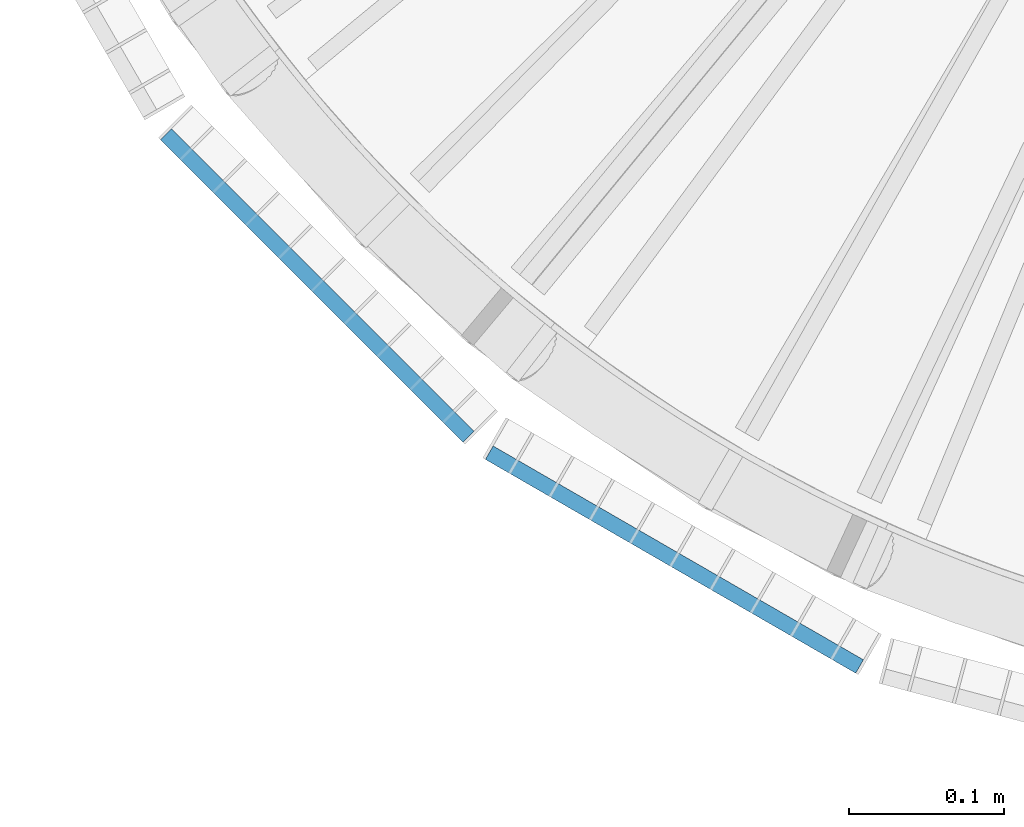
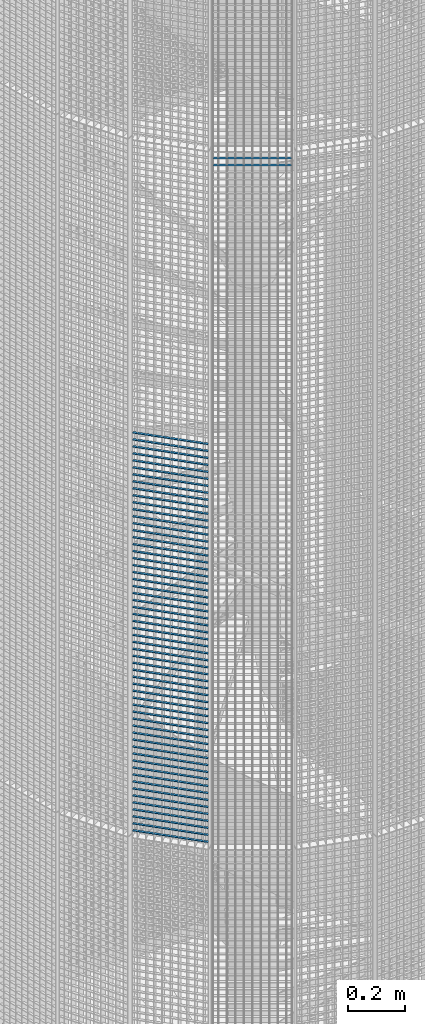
# One storey, part 336 of 1148: 60 beams, 2 elements without a shape of their own.
"""IFC2X3 building model written with IfcOpenShell, lengths in millimetres."""

from ifc_helpers import new_model, si_unit, frame, origin_with_axes, origin_2d_with_axis, place, context, subcontext, project, spatial, rectangle, extrude, material, type_object, element, aggregate, save


model = new_model("IFC2X3")

# Units and contexts
model_context = context("Model", 3, precision=1e-05, world=origin_with_axes())
body_context = subcontext(model_context, "Body", "Model", "MODEL_VIEW")
ifc_project = project(units=[si_unit("LENGTHUNIT", "METRE", prefix="MILLI"), si_unit("AREAUNIT", "SQUARE_METRE"), si_unit("VOLUMEUNIT", "CUBIC_METRE"), si_unit("MASSUNIT", "GRAM", prefix="KILO"), si_unit("TIMEUNIT", "SECOND"), si_unit("PLANEANGLEUNIT", "RADIAN"), si_unit("SOLIDANGLEUNIT", "STERADIAN"), si_unit("THERMODYNAMICTEMPERATUREUNIT", "DEGREE_CELSIUS"), si_unit("LUMINOUSINTENSITYUNIT", "LUMEN")], contexts=[model_context])

# Site, building, storey
site_placement = place(None, origin_with_axes())
site = spatial("IfcSite", under=ifc_project, at=site_placement, Name="Undefined", CompositionType="ELEMENT")
building_placement = place(site_placement, origin_with_axes())
building = spatial("IfcBuilding", under=site, at=building_placement, Name="Undefined", CompositionType="ELEMENT")
storey_placement = place(building_placement, origin_with_axes())
storey = spatial("IfcBuildingStorey", under=building, at=storey_placement, Name="Undefined", CompositionType="ELEMENT", Elevation=0.0)

# Assembly, beams
assembly_1_placement = place(storey_placement, origin_with_axes())
assembly_1 = element("IfcElementAssembly", 1, at=assembly_1_placement, inside=storey, Name="BORDURE", AssemblyPlace="NOTDEFINED", PredefinedType="NOTDEFINED")
ifc_material = material(Name="STEEL/S235JR")
beam_type = type_object("IfcBeamType", Name="PL2*10", PredefinedType="NOTDEFINED")
beam_1_placement = place(assembly_1_placement, frame((20910.2286510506, -884.927168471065, 13740.0), z_axis=(-0.70710678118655, -0.707106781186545, 0.0), x_axis=(-0.707106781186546, 0.707106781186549, 0.0)))
beam_1 = element("IfcBeam", 2, at=beam_1_placement, type_object=beam_type, material=ifc_material, Name="ENTRETOISE", context=body_context, shape_type="SweptSolid", body=[
    extrude(rectangle(XDim=2.0, YDim=10.0, at=origin_2d_with_axis()), frame((275.999999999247, 9.09494701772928e-13, 1.53210777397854e-14), z_axis=(-1.0, 0.0, 0.0), x_axis=(0.0, -1.0, 0.0)), (0.0, 0.0, 1.0), 276.0),
])
beam_2_placement = place(assembly_1_placement, frame((20910.2286510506, -884.927168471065, 13710.0), z_axis=(-0.70710678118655, -0.707106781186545, 0.0), x_axis=(-0.707106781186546, 0.707106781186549, 0.0)))
beam_2 = element("IfcBeam", 3, at=beam_2_placement, type_object=beam_type, material=ifc_material, Name="ENTRETOISE", context=body_context, shape_type="SweptSolid", body=[
    extrude(rectangle(XDim=2.0, YDim=10.0, at=origin_2d_with_axis()), frame((275.999999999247, 9.09494701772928e-13, 1.53210777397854e-14), z_axis=(-1.0, 0.0, 0.0), x_axis=(0.0, -1.0, 0.0)), (0.0, 0.0, 1.0), 276.0),
])
beam_3_placement = place(assembly_1_placement, frame((20910.2286510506, -884.927168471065, 13680.0), z_axis=(-0.70710678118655, -0.707106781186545, 0.0), x_axis=(-0.707106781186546, 0.707106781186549, 0.0)))
beam_3 = element("IfcBeam", 4, at=beam_3_placement, type_object=beam_type, material=ifc_material, Name="ENTRETOISE", context=body_context, shape_type="SweptSolid", body=[
    extrude(rectangle(XDim=2.0, YDim=10.0, at=origin_2d_with_axis()), frame((275.999999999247, 9.09494701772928e-13, 1.53210777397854e-14), z_axis=(-1.0, 0.0, 0.0), x_axis=(0.0, -1.0, 0.0)), (0.0, 0.0, 1.0), 276.0),
])
beam_4_placement = place(assembly_1_placement, frame((20910.2286510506, -884.927168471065, 13650.0), z_axis=(-0.70710678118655, -0.707106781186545, 0.0), x_axis=(-0.707106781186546, 0.707106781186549, 0.0)))
beam_4 = element("IfcBeam", 5, at=beam_4_placement, type_object=beam_type, material=ifc_material, Name="ENTRETOISE", context=body_context, shape_type="SweptSolid", body=[
    extrude(rectangle(XDim=2.0, YDim=10.0, at=origin_2d_with_axis()), frame((275.999999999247, 9.09494701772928e-13, 1.53210777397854e-14), z_axis=(-1.0, 0.0, 0.0), x_axis=(0.0, -1.0, 0.0)), (0.0, 0.0, 1.0), 276.0),
])
beam_5_placement = place(assembly_1_placement, frame((20910.2286510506, -884.927168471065, 13620.0), z_axis=(-0.70710678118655, -0.707106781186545, 0.0), x_axis=(-0.707106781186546, 0.707106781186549, 0.0)))
beam_5 = element("IfcBeam", 6, at=beam_5_placement, type_object=beam_type, material=ifc_material, Name="ENTRETOISE", context=body_context, shape_type="SweptSolid", body=[
    extrude(rectangle(XDim=2.0, YDim=10.0, at=origin_2d_with_axis()), frame((275.999999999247, 9.09494701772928e-13, 1.53210777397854e-14), z_axis=(-1.0, 0.0, 0.0), x_axis=(0.0, -1.0, 0.0)), (0.0, 0.0, 1.0), 276.0),
])
beam_6_placement = place(assembly_1_placement, frame((20910.2286510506, -884.927168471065, 13590.0), z_axis=(-0.70710678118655, -0.707106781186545, 0.0), x_axis=(-0.707106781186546, 0.707106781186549, 0.0)))
beam_6 = element("IfcBeam", 7, at=beam_6_placement, type_object=beam_type, material=ifc_material, Name="ENTRETOISE", context=body_context, shape_type="SweptSolid", body=[
    extrude(rectangle(XDim=2.0, YDim=10.0, at=origin_2d_with_axis()), frame((275.999999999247, 9.09494701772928e-13, 1.53210777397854e-14), z_axis=(-1.0, 0.0, 0.0), x_axis=(0.0, -1.0, 0.0)), (0.0, 0.0, 1.0), 276.0),
])
beam_7_placement = place(assembly_1_placement, frame((20910.2286510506, -884.927168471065, 13560.0), z_axis=(-0.70710678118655, -0.707106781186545, 0.0), x_axis=(-0.707106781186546, 0.707106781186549, 0.0)))
beam_7 = element("IfcBeam", 8, at=beam_7_placement, type_object=beam_type, material=ifc_material, Name="ENTRETOISE", context=body_context, shape_type="SweptSolid", body=[
    extrude(rectangle(XDim=2.0, YDim=10.0, at=origin_2d_with_axis()), frame((275.999999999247, 9.09494701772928e-13, 1.53210777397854e-14), z_axis=(-1.0, 0.0, 0.0), x_axis=(0.0, -1.0, 0.0)), (0.0, 0.0, 1.0), 276.0),
])
beam_8_placement = place(assembly_1_placement, frame((20910.2286510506, -884.927168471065, 13530.0), z_axis=(-0.70710678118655, -0.707106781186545, 0.0), x_axis=(-0.707106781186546, 0.707106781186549, 0.0)))
beam_8 = element("IfcBeam", 9, at=beam_8_placement, type_object=beam_type, material=ifc_material, Name="ENTRETOISE", context=body_context, shape_type="SweptSolid", body=[
    extrude(rectangle(XDim=2.0, YDim=10.0, at=origin_2d_with_axis()), frame((275.999999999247, 9.09494701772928e-13, 1.53210777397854e-14), z_axis=(-1.0, 0.0, 0.0), x_axis=(0.0, -1.0, 0.0)), (0.0, 0.0, 1.0), 276.0),
])
beam_9_placement = place(assembly_1_placement, frame((20910.2286510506, -884.927168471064, 13500.0), z_axis=(-0.70710678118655, -0.707106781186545, 0.0), x_axis=(-0.707106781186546, 0.707106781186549, 0.0)))
beam_9 = element("IfcBeam", 10, at=beam_9_placement, type_object=beam_type, material=ifc_material, Name="ENTRETOISE", context=body_context, shape_type="SweptSolid", body=[
    extrude(rectangle(XDim=2.0, YDim=10.0, at=origin_2d_with_axis()), frame((275.999999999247, 9.09494701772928e-13, 1.53210777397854e-14), z_axis=(-1.0, 0.0, 0.0), x_axis=(0.0, -1.0, 0.0)), (0.0, 0.0, 1.0), 276.0),
])
beam_10_placement = place(assembly_1_placement, frame((20910.2286510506, -884.927168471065, 13470.0), z_axis=(-0.70710678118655, -0.707106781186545, 0.0), x_axis=(-0.707106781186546, 0.707106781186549, 0.0)))
beam_10 = element("IfcBeam", 11, at=beam_10_placement, type_object=beam_type, material=ifc_material, Name="ENTRETOISE", context=body_context, shape_type="SweptSolid", body=[
    extrude(rectangle(XDim=2.0, YDim=10.0, at=origin_2d_with_axis()), frame((275.999999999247, 9.09494701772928e-13, 1.53210777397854e-14), z_axis=(-1.0, 0.0, 0.0), x_axis=(0.0, -1.0, 0.0)), (0.0, 0.0, 1.0), 276.0),
])
beam_11_placement = place(assembly_1_placement, frame((20910.2286510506, -884.927168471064, 13440.0), z_axis=(-0.70710678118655, -0.707106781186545, 0.0), x_axis=(-0.707106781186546, 0.707106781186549, 0.0)))
beam_11 = element("IfcBeam", 12, at=beam_11_placement, type_object=beam_type, material=ifc_material, Name="ENTRETOISE", context=body_context, shape_type="SweptSolid", body=[
    extrude(rectangle(XDim=2.0, YDim=10.0, at=origin_2d_with_axis()), frame((275.999999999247, 9.09494701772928e-13, 1.53210777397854e-14), z_axis=(-1.0, 0.0, 0.0), x_axis=(0.0, -1.0, 0.0)), (0.0, 0.0, 1.0), 276.0),
])
beam_12_placement = place(assembly_1_placement, frame((20910.2286510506, -884.927168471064, 13410.0), z_axis=(-0.70710678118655, -0.707106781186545, 0.0), x_axis=(-0.707106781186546, 0.707106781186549, 0.0)))
beam_12 = element("IfcBeam", 13, at=beam_12_placement, type_object=beam_type, material=ifc_material, Name="ENTRETOISE", context=body_context, shape_type="SweptSolid", body=[
    extrude(rectangle(XDim=2.0, YDim=10.0, at=origin_2d_with_axis()), frame((275.999999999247, 9.09494701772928e-13, 1.53210777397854e-14), z_axis=(-1.0, 0.0, 0.0), x_axis=(0.0, -1.0, 0.0)), (0.0, 0.0, 1.0), 276.0),
])
beam_13_placement = place(assembly_1_placement, frame((20910.2286510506, -884.927168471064, 13380.0), z_axis=(-0.70710678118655, -0.707106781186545, 0.0), x_axis=(-0.707106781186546, 0.707106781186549, 0.0)))
beam_13 = element("IfcBeam", 14, at=beam_13_placement, type_object=beam_type, material=ifc_material, Name="ENTRETOISE", context=body_context, shape_type="SweptSolid", body=[
    extrude(rectangle(XDim=2.0, YDim=10.0, at=origin_2d_with_axis()), frame((275.999999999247, 9.09494701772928e-13, 1.53210777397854e-14), z_axis=(-1.0, 0.0, 0.0), x_axis=(0.0, -1.0, 0.0)), (0.0, 0.0, 1.0), 276.0),
])
beam_14_placement = place(assembly_1_placement, frame((20910.2286510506, -884.927168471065, 13350.0), z_axis=(-0.70710678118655, -0.707106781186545, 0.0), x_axis=(-0.707106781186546, 0.707106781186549, 0.0)))
beam_14 = element("IfcBeam", 15, at=beam_14_placement, type_object=beam_type, material=ifc_material, Name="ENTRETOISE", context=body_context, shape_type="SweptSolid", body=[
    extrude(rectangle(XDim=2.0, YDim=10.0, at=origin_2d_with_axis()), frame((275.999999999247, 9.09494701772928e-13, 1.53210777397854e-14), z_axis=(-1.0, 0.0, 0.0), x_axis=(0.0, -1.0, 0.0)), (0.0, 0.0, 1.0), 276.0),
])
beam_15_placement = place(assembly_1_placement, frame((20910.2286510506, -884.927168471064, 13320.0), z_axis=(-0.70710678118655, -0.707106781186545, 0.0), x_axis=(-0.707106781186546, 0.707106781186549, 0.0)))
beam_15 = element("IfcBeam", 16, at=beam_15_placement, type_object=beam_type, material=ifc_material, Name="ENTRETOISE", context=body_context, shape_type="SweptSolid", body=[
    extrude(rectangle(XDim=2.0, YDim=10.0, at=origin_2d_with_axis()), frame((275.999999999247, 9.09494701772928e-13, 1.53210777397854e-14), z_axis=(-1.0, 0.0, 0.0), x_axis=(0.0, -1.0, 0.0)), (0.0, 0.0, 1.0), 276.0),
])
beam_16_placement = place(assembly_1_placement, frame((20910.2286510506, -884.927168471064, 13290.0), z_axis=(-0.70710678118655, -0.707106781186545, 0.0), x_axis=(-0.707106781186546, 0.707106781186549, 0.0)))
beam_16 = element("IfcBeam", 17, at=beam_16_placement, type_object=beam_type, material=ifc_material, Name="ENTRETOISE", context=body_context, shape_type="SweptSolid", body=[
    extrude(rectangle(XDim=2.0, YDim=10.0, at=origin_2d_with_axis()), frame((275.999999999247, 9.09494701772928e-13, 1.53210777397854e-14), z_axis=(-1.0, 0.0, 0.0), x_axis=(0.0, -1.0, 0.0)), (0.0, 0.0, 1.0), 276.0),
])
beam_17_placement = place(assembly_1_placement, frame((20910.2286510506, -884.927168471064, 13260.0), z_axis=(-0.70710678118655, -0.707106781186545, 0.0), x_axis=(-0.707106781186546, 0.707106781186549, 0.0)))
beam_17 = element("IfcBeam", 18, at=beam_17_placement, type_object=beam_type, material=ifc_material, Name="ENTRETOISE", context=body_context, shape_type="SweptSolid", body=[
    extrude(rectangle(XDim=2.0, YDim=10.0, at=origin_2d_with_axis()), frame((275.999999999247, 9.09494701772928e-13, 1.53210777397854e-14), z_axis=(-1.0, 0.0, 0.0), x_axis=(0.0, -1.0, 0.0)), (0.0, 0.0, 1.0), 276.0),
])
beam_18_placement = place(assembly_1_placement, frame((20910.2286510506, -884.927168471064, 13230.0), z_axis=(-0.70710678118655, -0.707106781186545, 0.0), x_axis=(-0.707106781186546, 0.707106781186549, 0.0)))
beam_18 = element("IfcBeam", 19, at=beam_18_placement, type_object=beam_type, material=ifc_material, Name="ENTRETOISE", context=body_context, shape_type="SweptSolid", body=[
    extrude(rectangle(XDim=2.0, YDim=10.0, at=origin_2d_with_axis()), frame((275.999999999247, 9.09494701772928e-13, 1.53210777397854e-14), z_axis=(-1.0, 0.0, 0.0), x_axis=(0.0, -1.0, 0.0)), (0.0, 0.0, 1.0), 276.0),
])
beam_19_placement = place(assembly_1_placement, frame((20910.2286510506, -884.927168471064, 13200.0), z_axis=(-0.70710678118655, -0.707106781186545, 0.0), x_axis=(-0.707106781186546, 0.707106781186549, 0.0)))
beam_19 = element("IfcBeam", 20, at=beam_19_placement, type_object=beam_type, material=ifc_material, Name="ENTRETOISE", context=body_context, shape_type="SweptSolid", body=[
    extrude(rectangle(XDim=2.0, YDim=10.0, at=origin_2d_with_axis()), frame((275.999999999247, 9.09494701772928e-13, 1.53210777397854e-14), z_axis=(-1.0, 0.0, 0.0), x_axis=(0.0, -1.0, 0.0)), (0.0, 0.0, 1.0), 276.0),
])
beam_20_placement = place(assembly_1_placement, frame((20910.2286510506, -884.927168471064, 13170.0), z_axis=(-0.70710678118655, -0.707106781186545, 0.0), x_axis=(-0.707106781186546, 0.707106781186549, 0.0)))
beam_20 = element("IfcBeam", 21, at=beam_20_placement, type_object=beam_type, material=ifc_material, Name="ENTRETOISE", context=body_context, shape_type="SweptSolid", body=[
    extrude(rectangle(XDim=2.0, YDim=10.0, at=origin_2d_with_axis()), frame((275.999999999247, 9.09494701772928e-13, 1.53210777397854e-14), z_axis=(-1.0, 0.0, 0.0), x_axis=(0.0, -1.0, 0.0)), (0.0, 0.0, 1.0), 276.0),
])
beam_21_placement = place(assembly_1_placement, frame((20910.2286510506, -884.927168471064, 13140.0), z_axis=(-0.70710678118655, -0.707106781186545, 0.0), x_axis=(-0.707106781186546, 0.707106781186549, 0.0)))
beam_21 = element("IfcBeam", 22, at=beam_21_placement, type_object=beam_type, material=ifc_material, Name="ENTRETOISE", context=body_context, shape_type="SweptSolid", body=[
    extrude(rectangle(XDim=2.0, YDim=10.0, at=origin_2d_with_axis()), frame((275.999999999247, 9.09494701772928e-13, 1.53210777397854e-14), z_axis=(-1.0, 0.0, 0.0), x_axis=(0.0, -1.0, 0.0)), (0.0, 0.0, 1.0), 276.0),
])
beam_22_placement = place(assembly_1_placement, frame((20910.2286510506, -884.927168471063, 12720.0), z_axis=(-0.70710678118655, -0.707106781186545, 0.0), x_axis=(-0.707106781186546, 0.707106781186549, 0.0)))
beam_22 = element("IfcBeam", 23, at=beam_22_placement, type_object=beam_type, material=ifc_material, Name="ENTRETOISE", context=body_context, shape_type="SweptSolid", body=[
    extrude(rectangle(XDim=2.0, YDim=10.0, at=origin_2d_with_axis()), frame((275.999999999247, 9.09494701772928e-13, 1.53210777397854e-14), z_axis=(-1.0, 0.0, 0.0), x_axis=(0.0, -1.0, 0.0)), (0.0, 0.0, 1.0), 276.0),
])
beam_23_placement = place(assembly_1_placement, frame((20910.2286510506, -884.927168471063, 12690.0), z_axis=(-0.70710678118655, -0.707106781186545, 0.0), x_axis=(-0.707106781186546, 0.707106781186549, 0.0)))
beam_23 = element("IfcBeam", 24, at=beam_23_placement, type_object=beam_type, material=ifc_material, Name="ENTRETOISE", context=body_context, shape_type="SweptSolid", body=[
    extrude(rectangle(XDim=2.0, YDim=10.0, at=origin_2d_with_axis()), frame((275.999999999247, 9.09494701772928e-13, 1.53210777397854e-14), z_axis=(-1.0, 0.0, 0.0), x_axis=(0.0, -1.0, 0.0)), (0.0, 0.0, 1.0), 276.0),
])
beam_24_placement = place(assembly_1_placement, frame((20910.2286510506, -884.927168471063, 12750.0), z_axis=(-0.70710678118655, -0.707106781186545, 0.0), x_axis=(-0.707106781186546, 0.707106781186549, 0.0)))
beam_24 = element("IfcBeam", 25, at=beam_24_placement, type_object=beam_type, material=ifc_material, Name="ENTRETOISE", context=body_context, shape_type="SweptSolid", body=[
    extrude(rectangle(XDim=2.0, YDim=10.0, at=origin_2d_with_axis()), frame((275.999999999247, 9.09494701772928e-13, 1.53210777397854e-14), z_axis=(-1.0, 0.0, 0.0), x_axis=(0.0, -1.0, 0.0)), (0.0, 0.0, 1.0), 276.0),
])
beam_25_placement = place(assembly_1_placement, frame((20910.2286510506, -884.927168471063, 12660.0), z_axis=(-0.70710678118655, -0.707106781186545, 0.0), x_axis=(-0.707106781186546, 0.707106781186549, 0.0)))
beam_25 = element("IfcBeam", 26, at=beam_25_placement, type_object=beam_type, material=ifc_material, Name="ENTRETOISE", context=body_context, shape_type="SweptSolid", body=[
    extrude(rectangle(XDim=2.0, YDim=10.0, at=origin_2d_with_axis()), frame((275.999999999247, 9.09494701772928e-13, 1.53210777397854e-14), z_axis=(-1.0, 0.0, 0.0), x_axis=(0.0, -1.0, 0.0)), (0.0, 0.0, 1.0), 276.0),
])
beam_26_placement = place(assembly_1_placement, frame((20910.2286510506, -884.927168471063, 12630.0), z_axis=(-0.70710678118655, -0.707106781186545, 0.0), x_axis=(-0.707106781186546, 0.707106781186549, 0.0)))
beam_26 = element("IfcBeam", 27, at=beam_26_placement, type_object=beam_type, material=ifc_material, Name="ENTRETOISE", context=body_context, shape_type="SweptSolid", body=[
    extrude(rectangle(XDim=2.0, YDim=10.0, at=origin_2d_with_axis()), frame((275.999999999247, 9.09494701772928e-13, 1.53210777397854e-14), z_axis=(-1.0, 0.0, 0.0), x_axis=(0.0, -1.0, 0.0)), (0.0, 0.0, 1.0), 276.0),
])
beam_27_placement = place(assembly_1_placement, frame((20910.2286510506, -884.927168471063, 12780.0), z_axis=(-0.70710678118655, -0.707106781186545, 0.0), x_axis=(-0.707106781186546, 0.707106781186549, 0.0)))
beam_27 = element("IfcBeam", 28, at=beam_27_placement, type_object=beam_type, material=ifc_material, Name="ENTRETOISE", context=body_context, shape_type="SweptSolid", body=[
    extrude(rectangle(XDim=2.0, YDim=10.0, at=origin_2d_with_axis()), frame((275.999999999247, 9.09494701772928e-13, 1.53210777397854e-14), z_axis=(-1.0, 0.0, 0.0), x_axis=(0.0, -1.0, 0.0)), (0.0, 0.0, 1.0), 276.0),
])
beam_28_placement = place(assembly_1_placement, frame((20910.2286510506, -884.927168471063, 12600.0), z_axis=(-0.70710678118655, -0.707106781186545, 0.0), x_axis=(-0.707106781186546, 0.707106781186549, 0.0)))
beam_28 = element("IfcBeam", 29, at=beam_28_placement, type_object=beam_type, material=ifc_material, Name="ENTRETOISE", context=body_context, shape_type="SweptSolid", body=[
    extrude(rectangle(XDim=2.0, YDim=10.0, at=origin_2d_with_axis()), frame((275.999999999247, 9.09494701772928e-13, 1.53210777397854e-14), z_axis=(-1.0, 0.0, 0.0), x_axis=(0.0, -1.0, 0.0)), (0.0, 0.0, 1.0), 276.0),
])
beam_29_placement = place(assembly_1_placement, frame((20910.2286510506, -884.927168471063, 12810.0), z_axis=(-0.70710678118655, -0.707106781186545, 0.0), x_axis=(-0.707106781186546, 0.707106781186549, 0.0)))
beam_29 = element("IfcBeam", 30, at=beam_29_placement, type_object=beam_type, material=ifc_material, Name="ENTRETOISE", context=body_context, shape_type="SweptSolid", body=[
    extrude(rectangle(XDim=2.0, YDim=10.0, at=origin_2d_with_axis()), frame((275.999999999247, 9.09494701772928e-13, 1.53210777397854e-14), z_axis=(-1.0, 0.0, 0.0), x_axis=(0.0, -1.0, 0.0)), (0.0, 0.0, 1.0), 276.0),
])
beam_30_placement = place(assembly_1_placement, frame((20910.2286510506, -884.927168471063, 12570.0), z_axis=(-0.70710678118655, -0.707106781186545, 0.0), x_axis=(-0.707106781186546, 0.707106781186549, 0.0)))
beam_30 = element("IfcBeam", 31, at=beam_30_placement, type_object=beam_type, material=ifc_material, Name="ENTRETOISE", context=body_context, shape_type="SweptSolid", body=[
    extrude(rectangle(XDim=2.0, YDim=10.0, at=origin_2d_with_axis()), frame((275.999999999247, 9.09494701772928e-13, 1.53210777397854e-14), z_axis=(-1.0, 0.0, 0.0), x_axis=(0.0, -1.0, 0.0)), (0.0, 0.0, 1.0), 276.0),
])
beam_31_placement = place(assembly_1_placement, frame((20910.2286510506, -884.927168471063, 12540.0), z_axis=(-0.70710678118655, -0.707106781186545, 0.0), x_axis=(-0.707106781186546, 0.707106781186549, 0.0)))
beam_31 = element("IfcBeam", 32, at=beam_31_placement, type_object=beam_type, material=ifc_material, Name="ENTRETOISE", context=body_context, shape_type="SweptSolid", body=[
    extrude(rectangle(XDim=2.0, YDim=10.0, at=origin_2d_with_axis()), frame((275.999999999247, 9.09494701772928e-13, 1.53210777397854e-14), z_axis=(-1.0, 0.0, 0.0), x_axis=(0.0, -1.0, 0.0)), (0.0, 0.0, 1.0), 276.0),
])
beam_32_placement = place(assembly_1_placement, frame((20910.2286510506, -884.927168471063, 12840.0), z_axis=(-0.70710678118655, -0.707106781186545, 0.0), x_axis=(-0.707106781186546, 0.707106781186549, 0.0)))
beam_32 = element("IfcBeam", 33, at=beam_32_placement, type_object=beam_type, material=ifc_material, Name="ENTRETOISE", context=body_context, shape_type="SweptSolid", body=[
    extrude(rectangle(XDim=2.0, YDim=10.0, at=origin_2d_with_axis()), frame((275.999999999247, 9.09494701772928e-13, 1.53210777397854e-14), z_axis=(-1.0, 0.0, 0.0), x_axis=(0.0, -1.0, 0.0)), (0.0, 0.0, 1.0), 276.0),
])
beam_33_placement = place(assembly_1_placement, frame((20910.2286510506, -884.927168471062, 12510.0), z_axis=(-0.70710678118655, -0.707106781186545, 0.0), x_axis=(-0.707106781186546, 0.707106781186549, 0.0)))
beam_33 = element("IfcBeam", 34, at=beam_33_placement, type_object=beam_type, material=ifc_material, Name="ENTRETOISE", context=body_context, shape_type="SweptSolid", body=[
    extrude(rectangle(XDim=2.0, YDim=10.0, at=origin_2d_with_axis()), frame((275.999999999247, 9.09494701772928e-13, 1.53210777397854e-14), z_axis=(-1.0, 0.0, 0.0), x_axis=(0.0, -1.0, 0.0)), (0.0, 0.0, 1.0), 276.0),
])
beam_34_placement = place(assembly_1_placement, frame((20910.2286510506, -884.927168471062, 12480.0), z_axis=(-0.70710678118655, -0.707106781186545, 0.0), x_axis=(-0.707106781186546, 0.707106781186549, 0.0)))
beam_34 = element("IfcBeam", 35, at=beam_34_placement, type_object=beam_type, material=ifc_material, Name="ENTRETOISE", context=body_context, shape_type="SweptSolid", body=[
    extrude(rectangle(XDim=2.0, YDim=10.0, at=origin_2d_with_axis()), frame((275.999999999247, 9.09494701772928e-13, 1.53210777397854e-14), z_axis=(-1.0, 0.0, 0.0), x_axis=(0.0, -1.0, 0.0)), (0.0, 0.0, 1.0), 276.0),
])
beam_35_placement = place(assembly_1_placement, frame((20910.2286510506, -884.927168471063, 12870.0), z_axis=(-0.70710678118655, -0.707106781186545, 0.0), x_axis=(-0.707106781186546, 0.707106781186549, 0.0)))
beam_35 = element("IfcBeam", 36, at=beam_35_placement, type_object=beam_type, material=ifc_material, Name="ENTRETOISE", context=body_context, shape_type="SweptSolid", body=[
    extrude(rectangle(XDim=2.0, YDim=10.0, at=origin_2d_with_axis()), frame((275.999999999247, 9.09494701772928e-13, 1.53210777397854e-14), z_axis=(-1.0, 0.0, 0.0), x_axis=(0.0, -1.0, 0.0)), (0.0, 0.0, 1.0), 276.0),
])
beam_36_placement = place(assembly_1_placement, frame((20910.2286510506, -884.927168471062, 12450.0), z_axis=(-0.70710678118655, -0.707106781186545, 0.0), x_axis=(-0.707106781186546, 0.707106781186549, 0.0)))
beam_36 = element("IfcBeam", 37, at=beam_36_placement, type_object=beam_type, material=ifc_material, Name="ENTRETOISE", context=body_context, shape_type="SweptSolid", body=[
    extrude(rectangle(XDim=2.0, YDim=10.0, at=origin_2d_with_axis()), frame((275.999999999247, 9.09494701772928e-13, 1.53210777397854e-14), z_axis=(-1.0, 0.0, 0.0), x_axis=(0.0, -1.0, 0.0)), (0.0, 0.0, 1.0), 276.0),
])
beam_37_placement = place(assembly_1_placement, frame((20910.2286510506, -884.927168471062, 12420.0), z_axis=(-0.70710678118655, -0.707106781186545, 0.0), x_axis=(-0.707106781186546, 0.707106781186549, 0.0)))
beam_37 = element("IfcBeam", 38, at=beam_37_placement, type_object=beam_type, material=ifc_material, Name="ENTRETOISE", context=body_context, shape_type="SweptSolid", body=[
    extrude(rectangle(XDim=2.0, YDim=10.0, at=origin_2d_with_axis()), frame((275.999999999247, 9.09494701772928e-13, 1.53210777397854e-14), z_axis=(-1.0, 0.0, 0.0), x_axis=(0.0, -1.0, 0.0)), (0.0, 0.0, 1.0), 276.0),
])
beam_38_placement = place(assembly_1_placement, frame((20910.2286510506, -884.927168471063, 12900.0), z_axis=(-0.70710678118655, -0.707106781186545, 0.0), x_axis=(-0.707106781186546, 0.707106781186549, 0.0)))
beam_38 = element("IfcBeam", 39, at=beam_38_placement, type_object=beam_type, material=ifc_material, Name="ENTRETOISE", context=body_context, shape_type="SweptSolid", body=[
    extrude(rectangle(XDim=2.0, YDim=10.0, at=origin_2d_with_axis()), frame((275.999999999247, 9.09494701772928e-13, 1.53210777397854e-14), z_axis=(-1.0, 0.0, 0.0), x_axis=(0.0, -1.0, 0.0)), (0.0, 0.0, 1.0), 276.0),
])
beam_39_placement = place(assembly_1_placement, frame((20910.2286510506, -884.927168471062, 12390.0), z_axis=(-0.70710678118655, -0.707106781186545, 0.0), x_axis=(-0.707106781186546, 0.707106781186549, 0.0)))
beam_39 = element("IfcBeam", 40, at=beam_39_placement, type_object=beam_type, material=ifc_material, Name="ENTRETOISE", context=body_context, shape_type="SweptSolid", body=[
    extrude(rectangle(XDim=2.0, YDim=10.0, at=origin_2d_with_axis()), frame((275.999999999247, 9.09494701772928e-13, 1.53210777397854e-14), z_axis=(-1.0, 0.0, 0.0), x_axis=(0.0, -1.0, 0.0)), (0.0, 0.0, 1.0), 276.0),
])
beam_40_placement = place(assembly_1_placement, frame((20910.2286510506, -884.927168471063, 12930.0), z_axis=(-0.70710678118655, -0.707106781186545, 0.0), x_axis=(-0.707106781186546, 0.707106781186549, 0.0)))
beam_40 = element("IfcBeam", 41, at=beam_40_placement, type_object=beam_type, material=ifc_material, Name="ENTRETOISE", context=body_context, shape_type="SweptSolid", body=[
    extrude(rectangle(XDim=2.0, YDim=10.0, at=origin_2d_with_axis()), frame((275.999999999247, 9.09494701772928e-13, 1.53210777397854e-14), z_axis=(-1.0, 0.0, 0.0), x_axis=(0.0, -1.0, 0.0)), (0.0, 0.0, 1.0), 276.0),
])
beam_41_placement = place(assembly_1_placement, frame((20910.2286510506, -884.927168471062, 12360.0), z_axis=(-0.70710678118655, -0.707106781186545, 0.0), x_axis=(-0.707106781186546, 0.707106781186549, 0.0)))
beam_41 = element("IfcBeam", 42, at=beam_41_placement, type_object=beam_type, material=ifc_material, Name="ENTRETOISE", context=body_context, shape_type="SweptSolid", body=[
    extrude(rectangle(XDim=2.0, YDim=10.0, at=origin_2d_with_axis()), frame((275.999999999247, 9.09494701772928e-13, 1.53210777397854e-14), z_axis=(-1.0, 0.0, 0.0), x_axis=(0.0, -1.0, 0.0)), (0.0, 0.0, 1.0), 276.0),
])
beam_42_placement = place(assembly_1_placement, frame((20910.2286510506, -884.927168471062, 12330.0), z_axis=(-0.70710678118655, -0.707106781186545, 0.0), x_axis=(-0.707106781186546, 0.707106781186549, 0.0)))
beam_42 = element("IfcBeam", 43, at=beam_42_placement, type_object=beam_type, material=ifc_material, Name="ENTRETOISE", context=body_context, shape_type="SweptSolid", body=[
    extrude(rectangle(XDim=2.0, YDim=10.0, at=origin_2d_with_axis()), frame((275.999999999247, 9.09494701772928e-13, 1.53210777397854e-14), z_axis=(-1.0, 0.0, 0.0), x_axis=(0.0, -1.0, 0.0)), (0.0, 0.0, 1.0), 276.0),
])
beam_43_placement = place(assembly_1_placement, frame((20910.2286510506, -884.927168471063, 12960.0), z_axis=(-0.70710678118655, -0.707106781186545, 0.0), x_axis=(-0.707106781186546, 0.707106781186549, 0.0)))
beam_43 = element("IfcBeam", 44, at=beam_43_placement, type_object=beam_type, material=ifc_material, Name="ENTRETOISE", context=body_context, shape_type="SweptSolid", body=[
    extrude(rectangle(XDim=2.0, YDim=10.0, at=origin_2d_with_axis()), frame((275.999999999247, 9.09494701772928e-13, 1.53210777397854e-14), z_axis=(-1.0, 0.0, 0.0), x_axis=(0.0, -1.0, 0.0)), (0.0, 0.0, 1.0), 276.0),
])
beam_44_placement = place(assembly_1_placement, frame((20910.2286510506, -884.927168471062, 12300.0), z_axis=(-0.70710678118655, -0.707106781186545, 0.0), x_axis=(-0.707106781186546, 0.707106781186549, 0.0)))
beam_44 = element("IfcBeam", 45, at=beam_44_placement, type_object=beam_type, material=ifc_material, Name="ENTRETOISE", context=body_context, shape_type="SweptSolid", body=[
    extrude(rectangle(XDim=2.0, YDim=10.0, at=origin_2d_with_axis()), frame((275.999999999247, 9.09494701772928e-13, 1.53210777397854e-14), z_axis=(-1.0, 0.0, 0.0), x_axis=(0.0, -1.0, 0.0)), (0.0, 0.0, 1.0), 276.0),
])
beam_45_placement = place(assembly_1_placement, frame((20910.2286510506, -884.927168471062, 12270.0), z_axis=(-0.70710678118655, -0.707106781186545, 0.0), x_axis=(-0.707106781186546, 0.707106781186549, 0.0)))
beam_45 = element("IfcBeam", 46, at=beam_45_placement, type_object=beam_type, material=ifc_material, Name="ENTRETOISE", context=body_context, shape_type="SweptSolid", body=[
    extrude(rectangle(XDim=2.0, YDim=10.0, at=origin_2d_with_axis()), frame((275.999999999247, 9.09494701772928e-13, 1.53210777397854e-14), z_axis=(-1.0, 0.0, 0.0), x_axis=(0.0, -1.0, 0.0)), (0.0, 0.0, 1.0), 276.0),
])
beam_46_placement = place(assembly_1_placement, frame((20910.2286510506, -884.927168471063, 12990.0), z_axis=(-0.70710678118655, -0.707106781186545, 0.0), x_axis=(-0.707106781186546, 0.707106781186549, 0.0)))
beam_46 = element("IfcBeam", 47, at=beam_46_placement, type_object=beam_type, material=ifc_material, Name="ENTRETOISE", context=body_context, shape_type="SweptSolid", body=[
    extrude(rectangle(XDim=2.0, YDim=10.0, at=origin_2d_with_axis()), frame((275.999999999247, 9.09494701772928e-13, 1.53210777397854e-14), z_axis=(-1.0, 0.0, 0.0), x_axis=(0.0, -1.0, 0.0)), (0.0, 0.0, 1.0), 276.0),
])
beam_47_placement = place(assembly_1_placement, frame((20910.2286510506, -884.927168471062, 12240.0), z_axis=(-0.70710678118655, -0.707106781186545, 0.0), x_axis=(-0.707106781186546, 0.707106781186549, 0.0)))
beam_47 = element("IfcBeam", 48, at=beam_47_placement, type_object=beam_type, material=ifc_material, Name="ENTRETOISE", context=body_context, shape_type="SweptSolid", body=[
    extrude(rectangle(XDim=2.0, YDim=10.0, at=origin_2d_with_axis()), frame((275.999999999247, 9.09494701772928e-13, 1.53210777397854e-14), z_axis=(-1.0, 0.0, 0.0), x_axis=(0.0, -1.0, 0.0)), (0.0, 0.0, 1.0), 276.0),
])
beam_48_placement = place(assembly_1_placement, frame((20910.2286510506, -884.927168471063, 13020.0), z_axis=(-0.70710678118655, -0.707106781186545, 0.0), x_axis=(-0.707106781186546, 0.707106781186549, 0.0)))
beam_48 = element("IfcBeam", 49, at=beam_48_placement, type_object=beam_type, material=ifc_material, Name="ENTRETOISE", context=body_context, shape_type="SweptSolid", body=[
    extrude(rectangle(XDim=2.0, YDim=10.0, at=origin_2d_with_axis()), frame((275.999999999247, 9.09494701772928e-13, 1.53210777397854e-14), z_axis=(-1.0, 0.0, 0.0), x_axis=(0.0, -1.0, 0.0)), (0.0, 0.0, 1.0), 276.0),
])
beam_49_placement = place(assembly_1_placement, frame((20910.2286510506, -884.927168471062, 12210.0), z_axis=(-0.70710678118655, -0.707106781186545, 0.0), x_axis=(-0.707106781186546, 0.707106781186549, 0.0)))
beam_49 = element("IfcBeam", 50, at=beam_49_placement, type_object=beam_type, material=ifc_material, Name="ENTRETOISE", context=body_context, shape_type="SweptSolid", body=[
    extrude(rectangle(XDim=2.0, YDim=10.0, at=origin_2d_with_axis()), frame((275.999999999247, 9.09494701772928e-13, 1.53210777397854e-14), z_axis=(-1.0, 0.0, 0.0), x_axis=(0.0, -1.0, 0.0)), (0.0, 0.0, 1.0), 276.0),
])
beam_50_placement = place(assembly_1_placement, frame((20910.2286510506, -884.927168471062, 12180.0), z_axis=(-0.70710678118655, -0.707106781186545, 0.0), x_axis=(-0.707106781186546, 0.707106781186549, 0.0)))
beam_50 = element("IfcBeam", 51, at=beam_50_placement, type_object=beam_type, material=ifc_material, Name="ENTRETOISE", context=body_context, shape_type="SweptSolid", body=[
    extrude(rectangle(XDim=2.0, YDim=10.0, at=origin_2d_with_axis()), frame((275.999999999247, 9.09494701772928e-13, 1.53210777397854e-14), z_axis=(-1.0, 0.0, 0.0), x_axis=(0.0, -1.0, 0.0)), (0.0, 0.0, 1.0), 276.0),
])
beam_51_placement = place(assembly_1_placement, frame((20910.2286510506, -884.927168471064, 13050.0), z_axis=(-0.70710678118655, -0.707106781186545, 0.0), x_axis=(-0.707106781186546, 0.707106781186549, 0.0)))
beam_51 = element("IfcBeam", 52, at=beam_51_placement, type_object=beam_type, material=ifc_material, Name="ENTRETOISE", context=body_context, shape_type="SweptSolid", body=[
    extrude(rectangle(XDim=2.0, YDim=10.0, at=origin_2d_with_axis()), frame((275.999999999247, 9.09494701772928e-13, 1.53210777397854e-14), z_axis=(-1.0, 0.0, 0.0), x_axis=(0.0, -1.0, 0.0)), (0.0, 0.0, 1.0), 276.0),
])
beam_52_placement = place(assembly_1_placement, frame((20910.2286510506, -884.927168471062, 12150.0), z_axis=(-0.70710678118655, -0.707106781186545, 0.0), x_axis=(-0.707106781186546, 0.707106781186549, 0.0)))
beam_52 = element("IfcBeam", 53, at=beam_52_placement, type_object=beam_type, material=ifc_material, Name="ENTRETOISE", context=body_context, shape_type="SweptSolid", body=[
    extrude(rectangle(XDim=2.0, YDim=10.0, at=origin_2d_with_axis()), frame((275.999999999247, 9.09494701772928e-13, 1.53210777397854e-14), z_axis=(-1.0, 0.0, 0.0), x_axis=(0.0, -1.0, 0.0)), (0.0, 0.0, 1.0), 276.0),
])
beam_53_placement = place(assembly_1_placement, frame((20910.2286510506, -884.927168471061, 12120.0), z_axis=(-0.70710678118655, -0.707106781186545, 0.0), x_axis=(-0.707106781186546, 0.707106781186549, 0.0)))
beam_53 = element("IfcBeam", 54, at=beam_53_placement, type_object=beam_type, material=ifc_material, Name="ENTRETOISE", context=body_context, shape_type="SweptSolid", body=[
    extrude(rectangle(XDim=2.0, YDim=10.0, at=origin_2d_with_axis()), frame((275.999999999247, 9.09494701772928e-13, 1.53210777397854e-14), z_axis=(-1.0, 0.0, 0.0), x_axis=(0.0, -1.0, 0.0)), (0.0, 0.0, 1.0), 276.0),
])
beam_54_placement = place(assembly_1_placement, frame((20910.2286510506, -884.927168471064, 13080.0), z_axis=(-0.70710678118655, -0.707106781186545, 0.0), x_axis=(-0.707106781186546, 0.707106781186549, 0.0)))
beam_54 = element("IfcBeam", 55, at=beam_54_placement, type_object=beam_type, material=ifc_material, Name="ENTRETOISE", context=body_context, shape_type="SweptSolid", body=[
    extrude(rectangle(XDim=2.0, YDim=10.0, at=origin_2d_with_axis()), frame((275.999999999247, 9.09494701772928e-13, 1.53210777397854e-14), z_axis=(-1.0, 0.0, 0.0), x_axis=(0.0, -1.0, 0.0)), (0.0, 0.0, 1.0), 276.0),
])
beam_55_placement = place(assembly_1_placement, frame((20910.2286510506, -884.927168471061, 12090.0), z_axis=(-0.70710678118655, -0.707106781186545, 0.0), x_axis=(-0.707106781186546, 0.707106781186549, 0.0)))
beam_55 = element("IfcBeam", 56, at=beam_55_placement, type_object=beam_type, material=ifc_material, Name="ENTRETOISE", context=body_context, shape_type="SweptSolid", body=[
    extrude(rectangle(XDim=2.0, YDim=10.0, at=origin_2d_with_axis()), frame((275.999999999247, 9.09494701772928e-13, 1.53210777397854e-14), z_axis=(-1.0, 0.0, 0.0), x_axis=(0.0, -1.0, 0.0)), (0.0, 0.0, 1.0), 276.0),
])
beam_56_placement = place(assembly_1_placement, frame((20910.2286510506, -884.927168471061, 12060.0), z_axis=(-0.70710678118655, -0.707106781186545, 0.0), x_axis=(-0.707106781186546, 0.707106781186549, 0.0)))
beam_56 = element("IfcBeam", 57, at=beam_56_placement, type_object=beam_type, material=ifc_material, Name="ENTRETOISE", context=body_context, shape_type="SweptSolid", body=[
    extrude(rectangle(XDim=2.0, YDim=10.0, at=origin_2d_with_axis()), frame((275.999999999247, 9.09494701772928e-13, 1.53210777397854e-14), z_axis=(-1.0, 0.0, 0.0), x_axis=(0.0, -1.0, 0.0)), (0.0, 0.0, 1.0), 276.0),
])
beam_57_placement = place(assembly_1_placement, frame((20910.2286510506, -884.927168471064, 13110.0), z_axis=(-0.70710678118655, -0.707106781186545, 0.0), x_axis=(-0.707106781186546, 0.707106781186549, 0.0)))
beam_57 = element("IfcBeam", 58, at=beam_57_placement, type_object=beam_type, material=ifc_material, Name="ENTRETOISE", context=body_context, shape_type="SweptSolid", body=[
    extrude(rectangle(XDim=2.0, YDim=10.0, at=origin_2d_with_axis()), frame((275.999999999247, 9.09494701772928e-13, 1.53210777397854e-14), z_axis=(-1.0, 0.0, 0.0), x_axis=(0.0, -1.0, 0.0)), (0.0, 0.0, 1.0), 276.0),
])
beam_58_placement = place(assembly_1_placement, frame((20910.2286510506, -884.92716847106, 12030.0), z_axis=(-0.70710678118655, -0.707106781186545, 0.0), x_axis=(-0.707106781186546, 0.707106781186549, 0.0)))
beam_58 = element("IfcBeam", 59, at=beam_58_placement, type_object=beam_type, material=ifc_material, Name="ENTRETOISE", context=body_context, shape_type="SweptSolid", body=[
    extrude(rectangle(XDim=2.0, YDim=10.0, at=origin_2d_with_axis()), frame((275.999999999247, 9.09494701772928e-13, 1.53210777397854e-14), z_axis=(-1.0, 0.0, 0.0), x_axis=(0.0, -1.0, 0.0)), (0.0, 0.0, 1.0), 276.0),
])
aggregate(assembly_1, [beam_1, beam_2, beam_3, beam_4, beam_5, beam_6, beam_7, beam_8, beam_9, beam_10, beam_11, beam_12, beam_13, beam_14, beam_15, beam_16, beam_17, beam_18, beam_19, beam_20, beam_21, beam_22, beam_23, beam_24, beam_25, beam_26, beam_27, beam_28, beam_29, beam_30, beam_31, beam_32, beam_33, beam_34, beam_35, beam_36, beam_37, beam_38, beam_39, beam_40, beam_41, beam_42, beam_43, beam_44, beam_45, beam_46, beam_47, beam_48, beam_49, beam_50, beam_51, beam_52, beam_53, beam_54, beam_55, beam_56, beam_57, beam_58])

assembly_2_placement = place(storey_placement, origin_with_axes())
assembly_2 = element("IfcElementAssembly", 60, at=assembly_2_placement, inside=storey, Name="BORDURE", AssemblyPlace="NOTDEFINED", PredefinedType="NOTDEFINED")
beam_59_placement = place(assembly_2_placement, frame((21162.7680445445, -1033.29996828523, 14970.0), z_axis=(-0.49999999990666, -0.866025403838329, 0.0), x_axis=(-0.866025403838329, 0.499999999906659, 0.0)))
beam_59 = element("IfcBeam", 61, at=beam_59_placement, type_object=beam_type, material=ifc_material, Name="ENTRETOISE", context=body_context, shape_type="SweptSolid", body=[
    extrude(rectangle(XDim=2.0, YDim=10.0, at=origin_2d_with_axis()), frame((275.999999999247, 9.09494701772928e-13, 1.53210777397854e-14), z_axis=(-1.0, 0.0, 0.0), x_axis=(0.0, -1.0, 0.0)), (0.0, 0.0, 1.0), 276.0),
])
beam_60_placement = place(assembly_2_placement, frame((21162.7680445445, -1033.29996828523, 14940.0), z_axis=(-0.49999999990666, -0.866025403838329, 0.0), x_axis=(-0.866025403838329, 0.499999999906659, 0.0)))
beam_60 = element("IfcBeam", 62, at=beam_60_placement, type_object=beam_type, material=ifc_material, Name="ENTRETOISE", context=body_context, shape_type="SweptSolid", body=[
    extrude(rectangle(XDim=2.0, YDim=10.0, at=origin_2d_with_axis()), frame((275.999999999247, 9.09494701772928e-13, 1.53210777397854e-14), z_axis=(-1.0, 0.0, 0.0), x_axis=(0.0, -1.0, 0.0)), (0.0, 0.0, 1.0), 276.0),
])
aggregate(assembly_2, [beam_59, beam_60])

save(model, "model.ifc")
